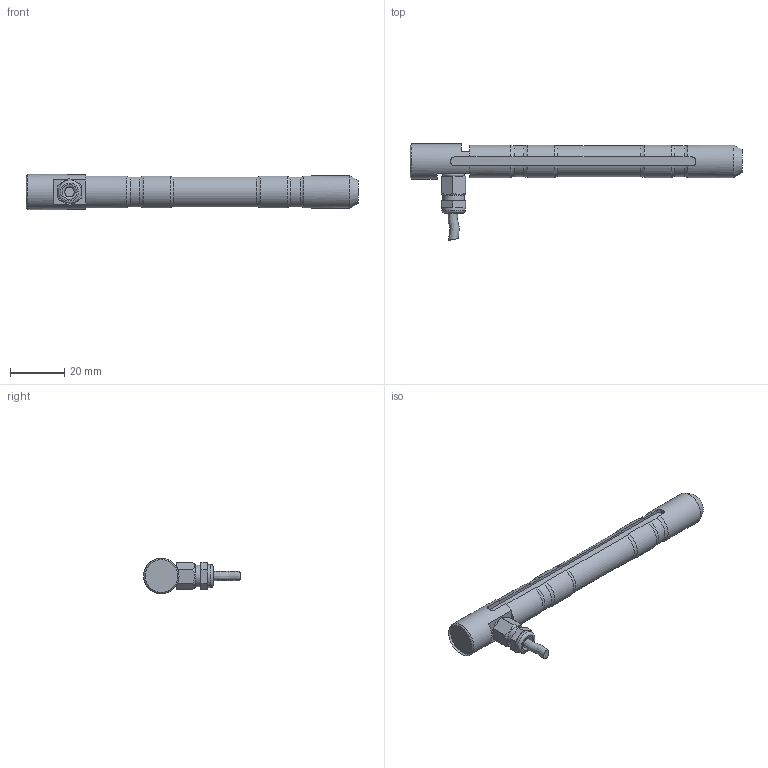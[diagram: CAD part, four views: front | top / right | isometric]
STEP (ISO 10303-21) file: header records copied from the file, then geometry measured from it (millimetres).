
FILE_DESCRIPTION(/* description */ ('Alibre Inc.'),/* implementation_level */ '2;1');
FILE_NAME(/* name */ 'export-1B846D73-BF1E-4DE0-A0B3-241E5021E4E4',/* time_stamp */ '2023-01-25T09:27:09+01:00',/* author */ (''),/* organization */ (''),/* preprocessor_version */ 'ST-DEVELOPER v17',/* originating_system */ 'Alibre',/* authorisation */ '');
FILE_SCHEMA (('CONFIG_CONTROL_DESIGN'));
Length unit declared in the file: millimetre
Products named in the file (6): ID_1
Bounding box: 122 x 35.51 x 13 mm (x, y, z)
Volume: 13409.8 mm3; surface area: 6355.9 mm2
Topology: 4 solids, 4 shells, 104 faces, 268 edges, 175 vertices
Faces by surface type: plane 43, cylinder 40, torus 15, cone 5, bspline 1
Full cylindrical faces by diameter (mm): 3.5 x1, 5 x1, 6 x1, 8 x1, 8.6 x1, 12 x2, 13 x1
Entity records: 3746 total; most frequent: CARTESIAN_POINT 995, ORIENTED_EDGE 494, DIRECTION 353, EDGE_CURVE 247, VERTEX_POINT 171, AXIS2_PLACEMENT_3D 144, FACE_BOUND 126, EDGE_LOOP 125
